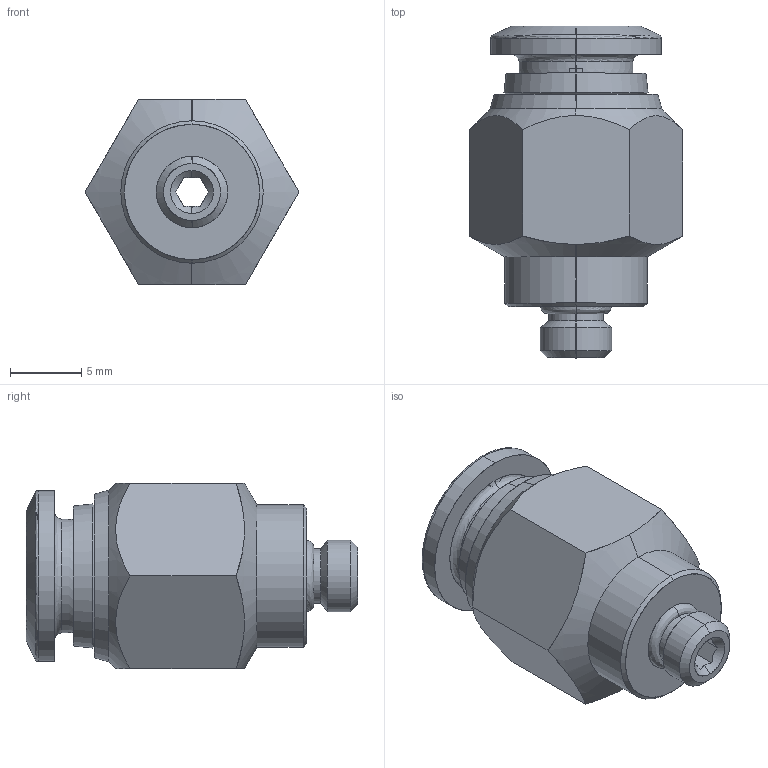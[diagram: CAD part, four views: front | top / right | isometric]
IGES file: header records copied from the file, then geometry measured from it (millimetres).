
Start section: SolidWorks IGES file using analytic representation for surfaces
Global section: file name: K:\Disegni Esecutivi\SERIE 40000\ASSIEMI\40020\IGES e STEP\40020V0020A.IGS; native system: SolidWorks 2020; preprocessor: SolidWorks 2020; author: CAD13; date: 241021.142421; units: millimetre
Bounding box: 15.01 x 23.3 x 13 mm (x, y, z)
Surface area: 1494.7 mm2 (no closed solid volume)
Topology: 0 solids, 0 shells, 69 faces, 898 edges, 898 vertices
Faces by surface type: revolution 39, bspline 30
